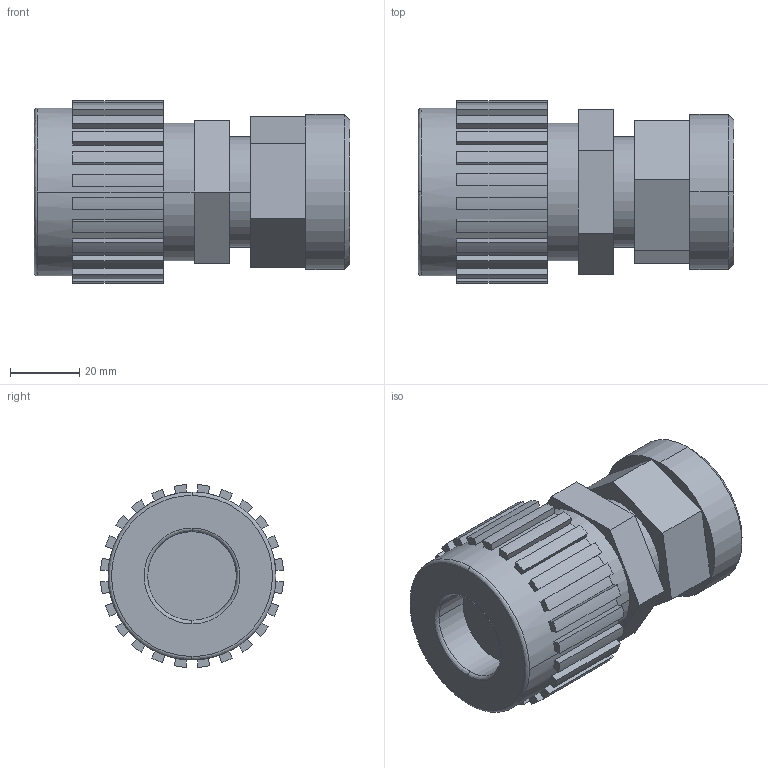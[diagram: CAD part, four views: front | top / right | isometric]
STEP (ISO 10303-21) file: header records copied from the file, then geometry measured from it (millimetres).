
FILE_DESCRIPTION (( 'STEP AP214' ), '1' );
FILE_NAME ('16-pillar-s-300-with-top-mount-adapter.STEP', '2012-11-27T19:09:18', ( '' ), ( '' ), 'SwSTEP 2.0', 'SolidWorks 2012', '' );
FILE_SCHEMA (( 'AUTOMOTIVE_DESIGN' ));
Length unit declared in the file: inch
Products named in the file (1): 16-pillar-s-300-with-top-mount-adapter
Bounding box: 91.08 x 52.72 x 52.72 mm (x, y, z)
Volume: 138040 mm3; surface area: 22548.1 mm2
Topology: 1 solids, 1 shells, 132 faces, 370 edges, 246 vertices
Faces by surface type: plane 92, cylinder 34, bspline 4, cone 2
Entity records: 4640 total; most frequent: CARTESIAN_POINT 1064, DIRECTION 744, ORIENTED_EDGE 740, EDGE_CURVE 370, AXIS2_PLACEMENT_3D 252, VERTEX_POINT 246, VECTOR 240, LINE 240
